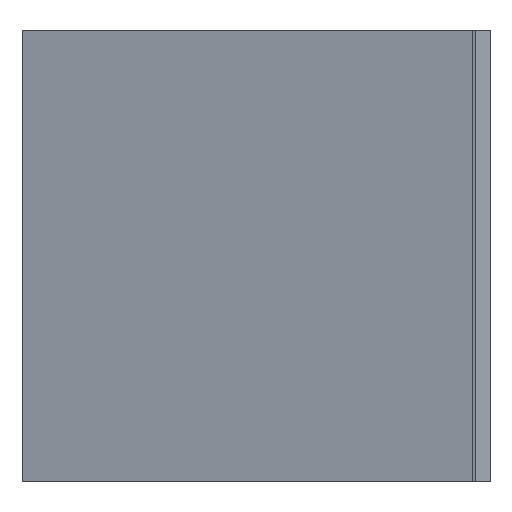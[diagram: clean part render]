
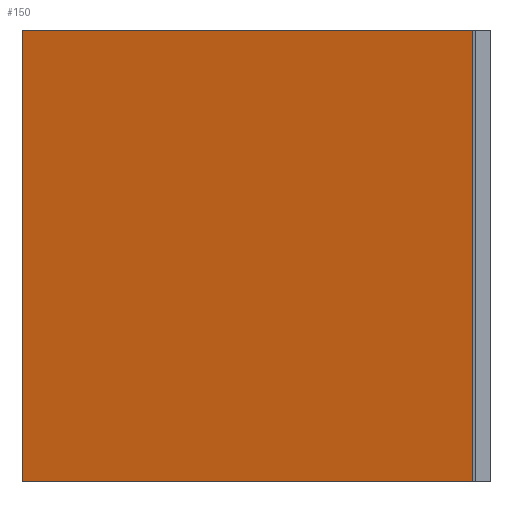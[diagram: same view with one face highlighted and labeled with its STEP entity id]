
A CAD part, left-side view. The second image highlights one B-rep face of the part: STEP entity #150.
In plain terms, the highlighted planar face has unit normal (0.968, -0.252, 0).
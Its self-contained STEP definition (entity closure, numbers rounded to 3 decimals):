
#98=CARTESIAN_POINT('Vertex',(20.,0.,0.)) ;
#101=CARTESIAN_POINT('Line Origine',(20.,0.,63.5)) ;
#105=CARTESIAN_POINT('Vertex',(20.,0.,127.)) ;
#120=CARTESIAN_POINT('Axis2P3D Location',(20.,0.,0.)) ;
#125=CARTESIAN_POINT('Line Origine',(36.5,63.5,0.)) ;
#129=CARTESIAN_POINT('Vertex',(53.,127.,0.)) ;
#132=CARTESIAN_POINT('Line Origine',(53.,127.,63.5)) ;
#136=CARTESIAN_POINT('Vertex',(53.,127.,127.)) ;
#139=CARTESIAN_POINT('Line Origine',(36.5,63.5,127.)) ;
#102=DIRECTION('Vector Direction',(0.,0.,1.)) ;
#121=DIRECTION('Axis2P3D Direction',(0.968,-0.251,0.)) ;
#122=DIRECTION('Axis2P3D XDirection',(0.251,0.968,0.)) ;
#126=DIRECTION('Vector Direction',(0.251,0.968,0.)) ;
#133=DIRECTION('Vector Direction',(0.,0.,1.)) ;
#140=DIRECTION('Vector Direction',(0.251,0.968,0.)) ;
#123=AXIS2_PLACEMENT_3D('Plane Axis2P3D',#120,#121,#122) ;
#145=ORIENTED_EDGE('',*,*,#107,.F.) ;
#146=ORIENTED_EDGE('',*,*,#131,.T.) ;
#147=ORIENTED_EDGE('',*,*,#138,.T.) ;
#148=ORIENTED_EDGE('',*,*,#143,.F.) ;
#103=VECTOR('Line Direction',#102,1.) ;
#127=VECTOR('Line Direction',#126,1.) ;
#134=VECTOR('Line Direction',#133,1.) ;
#141=VECTOR('Line Direction',#140,1.) ;
#150=ADVANCED_FACE('Extrude.1',(#149),#124,.T.) ;
#107=EDGE_CURVE('',#99,#106,#104,.T.) ;
#131=EDGE_CURVE('',#99,#130,#128,.T.) ;
#138=EDGE_CURVE('',#130,#137,#135,.T.) ;
#143=EDGE_CURVE('',#106,#137,#142,.T.) ;
#144=EDGE_LOOP('',(#145,#146,#147,#148)) ;
#149=FACE_OUTER_BOUND('',#144,.T.) ;
#104=LINE('Line',#101,#103) ;
#128=LINE('Line',#125,#127) ;
#135=LINE('Line',#132,#134) ;
#142=LINE('Line',#139,#141) ;
#124=PLANE('',#123) ;
#99=VERTEX_POINT('',#98) ;
#106=VERTEX_POINT('',#105) ;
#130=VERTEX_POINT('',#129) ;
#137=VERTEX_POINT('',#136) ;
